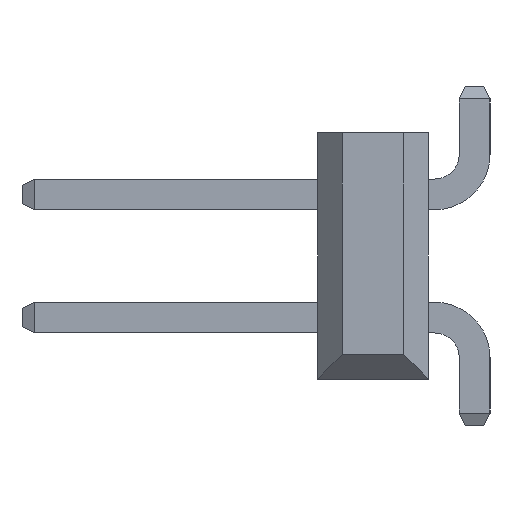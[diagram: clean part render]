
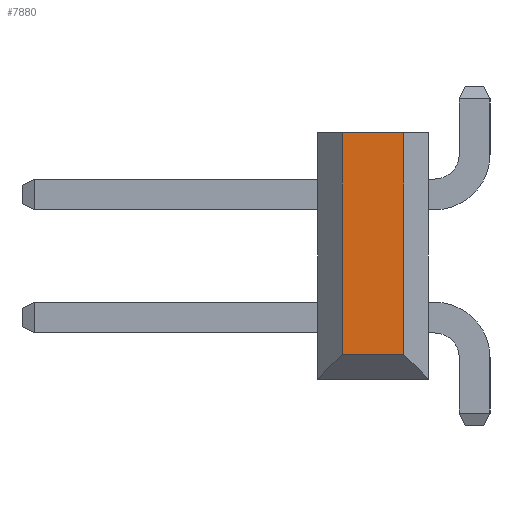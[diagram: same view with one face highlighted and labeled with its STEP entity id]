
A CAD part, left-side view. The second image highlights one B-rep face of the part: STEP entity #7880.
In plain terms, the highlighted planar face has unit normal (-1, 0, 0).
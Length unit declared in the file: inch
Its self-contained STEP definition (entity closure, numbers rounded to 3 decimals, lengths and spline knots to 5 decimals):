
#589=DIRECTION('',(0.,-1.,0.));
#590=VECTOR('',#589,0.05);
#591=CARTESIAN_POINT('',(-0.5,0.025,0.1));
#592=LINE('',#591,#590);
#1185=DIRECTION('',(0.,0.,1.));
#1186=VECTOR('',#1185,0.18);
#1187=CARTESIAN_POINT('',(-0.5,-0.025,-0.08));
#1188=LINE('',#1187,#1186);
#1193=DIRECTION('',(0.,0.,1.));
#1194=VECTOR('',#1193,0.18);
#1195=CARTESIAN_POINT('',(-0.5,0.025,-0.08));
#1196=LINE('',#1195,#1194);
#1197=DIRECTION('',(0.,-1.,0.));
#1198=VECTOR('',#1197,0.05);
#1199=CARTESIAN_POINT('',(-0.5,0.025,-0.08));
#1200=LINE('',#1199,#1198);
#5213=CARTESIAN_POINT('',(-0.5,0.025,0.1));
#5214=CARTESIAN_POINT('',(-0.5,-0.025,0.1));
#5215=VERTEX_POINT('',#5213);
#5216=VERTEX_POINT('',#5214);
#5229=CARTESIAN_POINT('',(-0.5,0.025,-0.08));
#5230=VERTEX_POINT('',#5229);
#5231=CARTESIAN_POINT('',(-0.5,-0.025,-0.08));
#5232=VERTEX_POINT('',#5231);
#7867=CARTESIAN_POINT('',(-0.5,0.025,-0.1));
#7868=DIRECTION('',(-1.,0.,0.));
#7869=DIRECTION('',(0.,-1.,0.));
#7870=AXIS2_PLACEMENT_3D('',#7867,#7868,#7869);
#7871=PLANE('',#7870);
#7873=ORIENTED_EDGE('',*,*,#7872,.T.);
#7874=ORIENTED_EDGE('',*,*,#7287,.T.);
#7875=ORIENTED_EDGE('',*,*,#7858,.F.);
#7877=ORIENTED_EDGE('',*,*,#7876,.F.);
#7878=EDGE_LOOP('',(#7873,#7874,#7875,#7877));
#7879=FACE_OUTER_BOUND('',#7878,.F.);
#7880=ADVANCED_FACE('',(#7879),#7871,.T.);
#7287=EDGE_CURVE('',#5215,#5216,#592,.T.);
#7858=EDGE_CURVE('',#5232,#5216,#1188,.T.);
#7872=EDGE_CURVE('',#5230,#5215,#1196,.T.);
#7876=EDGE_CURVE('',#5230,#5232,#1200,.T.);
